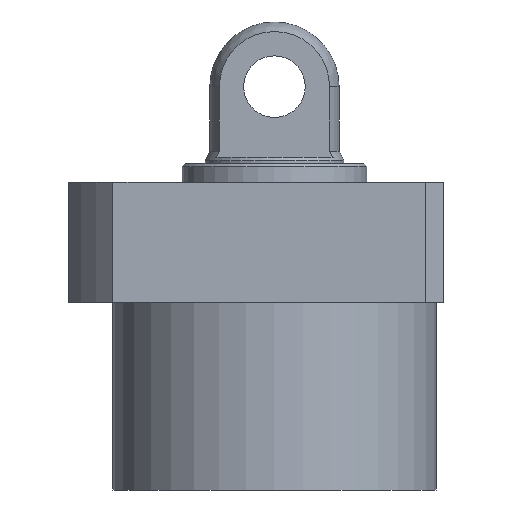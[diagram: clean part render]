
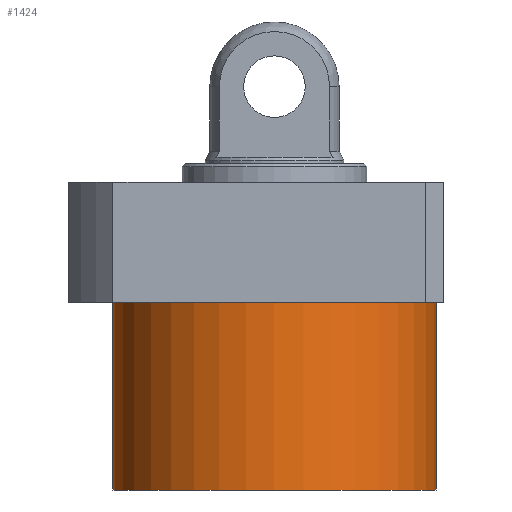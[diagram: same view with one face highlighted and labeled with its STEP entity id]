
A CAD part, front view. The second image highlights one B-rep face of the part: STEP entity #1424.
In plain terms, the highlighted cylindrical face has radius 52.5 mm (diameter 105 mm), a partial arc.
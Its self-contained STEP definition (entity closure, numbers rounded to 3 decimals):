
#4 = EDGE_CURVE ( 'NONE', #184, #504, #1530, .T. ) ;
#22 = EDGE_CURVE ( 'NONE', #1089, #184, #797, .T. ) ;
#24 = DIRECTION ( 'NONE',  ( 0., 0., 1. ) ) ;
#54 = LINE ( 'NONE', #1396, #1463 ) ;
#70 = AXIS2_PLACEMENT_3D ( 'NONE', #444, #1540, #997 ) ;
#141 = EDGE_LOOP ( 'NONE', ( #1628, #291, #328, #1087 ) ) ;
#184 = VERTEX_POINT ( 'NONE', #1173 ) ;
#276 = DIRECTION ( 'NONE',  ( 0., 0., -1. ) ) ;
#281 = CARTESIAN_POINT ( 'NONE',  ( 52.5, 0., -19.5 ) ) ;
#291 = ORIENTED_EDGE ( 'NONE', *, *, #22, .F. ) ;
#328 = ORIENTED_EDGE ( 'NONE', *, *, #434, .T. ) ;
#434 = EDGE_CURVE ( 'NONE', #1089, #870, #54, .T. ) ;
#444 = CARTESIAN_POINT ( 'NONE',  ( 0., 0., -80.5 ) ) ;
#504 = VERTEX_POINT ( 'NONE', #1679 ) ;
#690 = CARTESIAN_POINT ( 'NONE',  ( 0., 0., -19.5 ) ) ;
#694 = AXIS2_PLACEMENT_3D ( 'NONE', #845, #1665, #978 ) ;
#797 = CIRCLE ( 'NONE', #70, 52.5 ) ;
#845 = CARTESIAN_POINT ( 'NONE',  ( 0., 0., -80.5 ) ) ;
#849 = EDGE_CURVE ( 'NONE', #870, #504, #1355, .T. ) ;
#870 = VERTEX_POINT ( 'NONE', #281 ) ;
#978 = DIRECTION ( 'NONE',  ( 1., 0., 0. ) ) ;
#997 = DIRECTION ( 'NONE',  ( -1., 0., 0. ) ) ;
#999 = FACE_OUTER_BOUND ( 'NONE', #141, .T. ) ;
#1087 = ORIENTED_EDGE ( 'NONE', *, *, #849, .T. ) ;
#1089 = VERTEX_POINT ( 'NONE', #1152 ) ;
#1098 = AXIS2_PLACEMENT_3D ( 'NONE', #690, #276, #1639 ) ;
#1152 = CARTESIAN_POINT ( 'NONE',  ( 52.5, 0., -80.5 ) ) ;
#1173 = CARTESIAN_POINT ( 'NONE',  ( -52.5, 0., -80.5 ) ) ;
#1259 = DIRECTION ( 'NONE',  ( 0., 0., 1. ) ) ;
#1282 = CARTESIAN_POINT ( 'NONE',  ( -52.5, 0., -80.5 ) ) ;
#1301 = CYLINDRICAL_SURFACE ( 'NONE', #694, 52.5 ) ;
#1355 = CIRCLE ( 'NONE', #1098, 52.5 ) ;
#1396 = CARTESIAN_POINT ( 'NONE',  ( 52.5, 0., -80.5 ) ) ;
#1424 = ADVANCED_FACE ( 'NONE', ( #999 ), #1301, .T. ) ;
#1463 = VECTOR ( 'NONE', #1259, 1000. ) ;
#1471 = VECTOR ( 'NONE', #24, 1000. ) ;
#1530 = LINE ( 'NONE', #1282, #1471 ) ;
#1540 = DIRECTION ( 'NONE',  ( 0., 0., -1. ) ) ;
#1628 = ORIENTED_EDGE ( 'NONE', *, *, #4, .F. ) ;
#1639 = DIRECTION ( 'NONE',  ( 1., 0., 0. ) ) ;
#1665 = DIRECTION ( 'NONE',  ( 0., 0., 1. ) ) ;
#1679 = CARTESIAN_POINT ( 'NONE',  ( -52.5, 0., -19.5 ) ) ;
